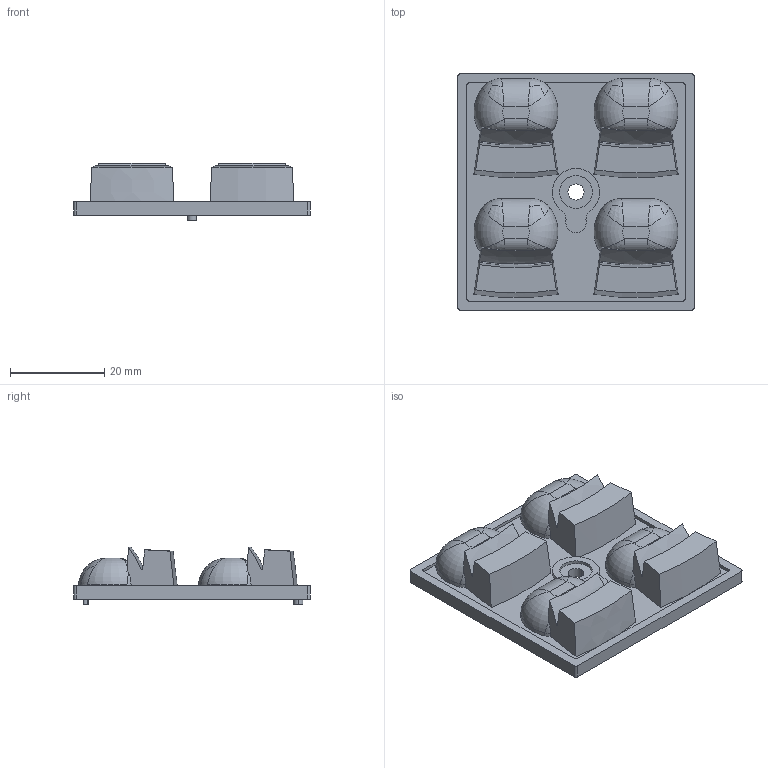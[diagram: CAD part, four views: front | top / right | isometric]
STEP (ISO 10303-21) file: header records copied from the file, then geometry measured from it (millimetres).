
FILE_DESCRIPTION(('Creo Elements/Direct Modeling STEP Export'),'2;1');
FILE_NAME('95509.stp','2024-10-29T10:25:30',(''),(''),'Creo Elements/Direct Modeling STEP processor for AP214 (Solid Model)','Creo Elements/Direct Modeling 20.7 06-Apr-2024 (C) Parametric Technology GmbH','');
FILE_SCHEMA(('AUTOMOTIVE_DESIGN { 1 0 10303 214 1 1 1 1 }'));
Length unit declared in the file: millimetre
Products named in the file (2): 95509
Assembly tree (1 placements, depth 2):
  95509
    95509
Bounding box: 50 x 50 x 12.24 mm (x, y, z)
Volume: 13007.6 mm3; surface area: 8110.9 mm2
Topology: 1 solids, 1 shells, 409 faces, 1119 edges, 747 vertices
Faces by surface type: plane 213, bspline 105, cylinder 51, cone 32, torus 8
Entity records: 35416 total; most frequent: CARTESIAN_POINT 24775, ORIENTED_EDGE 2238, DIRECTION 1423, EDGE_CURVE 1119, VERTEX_POINT 747, VECTOR 551, LINE 551, EDGE_LOOP 446
